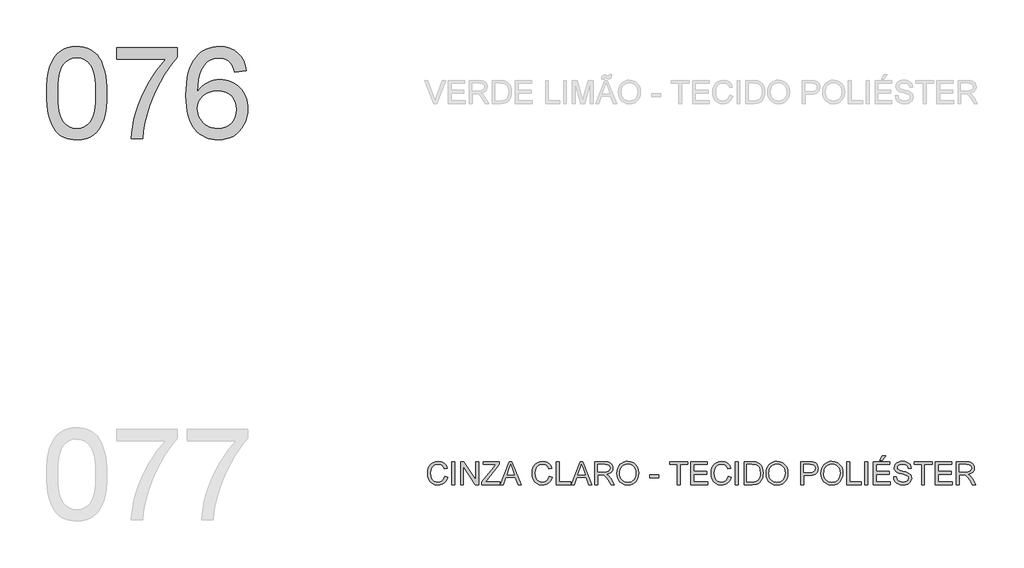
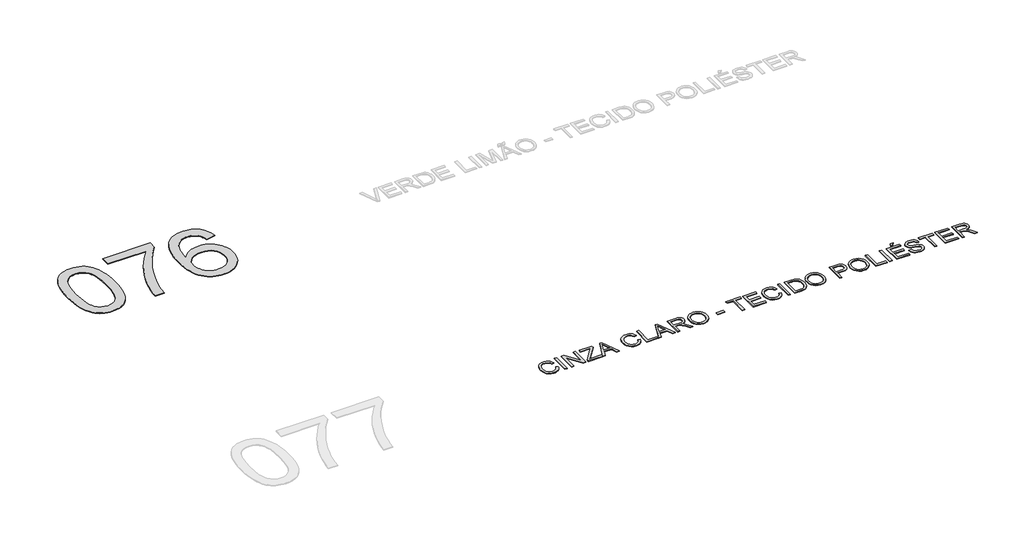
# One storey, part 6 of 39: 2 proxies.
"""IFC4 building model written with IfcOpenShell, lengths in millimetres."""

import ifcopenshell
import ifcopenshell.guid

model = None  # the IFC model being written
_history = None  # IfcOwnerHistory: only IFC2X3 demands one
_inside = {}  # id of a spatial element -> (the spatial element, [elements in it])
_under = {}  # id of a project, library or spatial element -> (it, [spatial elements below it])
_declared = {}  # id of a project -> (the project, [libraries it declares])
_typed = {}  # id of a type object -> (the type object, [elements of that type])
_made_of = {}  # id of a material, layer set ... -> (it, [elements and type objects made of it])


def new_model(schema):
    """Start an empty IFC model of exactly this schema.

    Asked for "IFC4X3", IfcOpenShell would pick the latest addendum, in which some entities
    have other attributes; the version numbers below select the first issue.
    IFC2X3 requires an IfcOwnerHistory on every rooted entity: one is made here for all.
    """
    global model, _history
    if schema == "IFC4X3":
        model = ifcopenshell.file(schema_version=(4, 3, 0, 0))
    else:
        model = ifcopenshell.file(schema=schema)
    _inside.clear()
    _under.clear()
    _declared.clear()
    _typed.clear()
    _made_of.clear()
    _history = None
    if model.schema == "IFC2X3":
        org = make("IfcOrganization", Name="unknown")
        user = make(
            "IfcPersonAndOrganization",
            ThePerson=make("IfcPerson", FamilyName="unknown"),
            TheOrganization=org,
        )
        app = make(
            "IfcApplication",
            ApplicationDeveloper=org,
            Version="unknown",
            ApplicationFullName="unknown",
            ApplicationIdentifier="unknown",
        )
        _history = make(
            "IfcOwnerHistory",
            OwningUser=user,
            OwningApplication=app,
            ChangeAction="ADDED",
            CreationDate=0,
        )
    return model


def make(cls, **values):
    """One entity of the class cls with the attributes given. An attribute that is None is left unset."""
    return model.create_entity(
        cls, **{name: value for name, value in values.items() if value is not None}
    )


def rooted(cls, **values):
    """An entity with a GlobalId (a new one), such as an element, a storey or a relation."""
    return make(cls, GlobalId=ifcopenshell.guid.new(), OwnerHistory=_history, **values)


def si_unit(unit_type, name, prefix=None):
    """IfcSIUnit, for example si_unit("LENGTHUNIT", "METRE", prefix="MILLI")."""
    return make("IfcSIUnit", UnitType=unit_type, Prefix=prefix, Name=name)


def assignment(units):
    """IfcUnitAssignment: the units of a project."""
    return None if units is None else make("IfcUnitAssignment", Units=units)


def point(xyz):
    """IfcCartesianPoint."""
    return None if xyz is None else make("IfcCartesianPoint", Coordinates=xyz)


def direction(xyz):
    """IfcDirection."""
    return None if xyz is None else make("IfcDirection", DirectionRatios=xyz)


def frame(location, z_axis=None, x_axis=None):
    """IfcAxis2Placement3D, a coordinate frame: its origin and axes. An axis left out is left unset."""
    return make(
        "IfcAxis2Placement3D",
        Location=point(location),
        Axis=direction(z_axis),
        RefDirection=direction(x_axis),
    )


def origin():
    """The frame at (0, 0, 0) with its axes left unset."""
    return frame((0.0, 0.0, 0.0))


def origin_with_axes():
    """The frame at (0, 0, 0) with the z axis (0, 0, 1) and the x axis (1, 0, 0) written out."""
    return frame((0.0, 0.0, 0.0), z_axis=(0.0, 0.0, 1.0), x_axis=(1.0, 0.0, 0.0))


def place(relative_to, where):
    """IfcLocalPlacement: puts the frame where relative to a parent placement (None: the world)."""
    return make(
        "IfcLocalPlacement", PlacementRelTo=relative_to, RelativePlacement=where
    )


def context(
    kind, dimensions, precision=None, world=None, true_north=None, identifier=None
):
    """IfcGeometricRepresentationContext, for example the 3D "Model" context."""
    return make(
        "IfcGeometricRepresentationContext",
        ContextIdentifier=identifier,
        ContextType=kind,
        CoordinateSpaceDimension=dimensions,
        Precision=precision,
        WorldCoordinateSystem=world,
        TrueNorth=true_north,
    )


def project(units=None, contexts=None):
    """IfcProject with its units and contexts."""
    return rooted(
        "IfcProject",
        Name="project",
        RepresentationContexts=contexts,
        UnitsInContext=assignment(units),
    )


def spatial(cls, under=None, at=None, **own):
    """A site, building, storey or space (cls), placed at a placement, below another one or the project."""
    s = rooted(cls, ObjectPlacement=at, **own)
    if under is not None:
        _under.setdefault(under.id(), (under, []))[1].append(s)
    return s


def polyline(points):
    """IfcPolyline through the points."""
    return make("IfcPolyline", Points=[point(p) for p in points])


def outline(outer, holes=None, kind="AREA"):
    """IfcArbitraryClosedProfileDef: a profile drawn as a closed curve; with holes, ...WithVoids."""
    if holes is None:
        return make("IfcArbitraryClosedProfileDef", ProfileType=kind, OuterCurve=outer)
    return make(
        "IfcArbitraryProfileDefWithVoids",
        ProfileType=kind,
        OuterCurve=outer,
        InnerCurves=holes,
    )


def extrude(swept, where, along, depth):
    """IfcExtrudedAreaSolid: the profile swept, set in the frame where, extruded along a direction by depth."""
    return make(
        "IfcExtrudedAreaSolid",
        SweptArea=swept,
        Position=where,
        ExtrudedDirection=direction(along),
        Depth=depth,
    )


def shape(context_of_items, identifier, shape_type, items):
    """IfcShapeRepresentation: the items that make up one representation, for example the "Body"."""
    return make(
        "IfcShapeRepresentation",
        ContextOfItems=context_of_items,
        RepresentationIdentifier=identifier,
        RepresentationType=shape_type,
        Items=items,
    )


def made_of(thing, what):
    """Note that an element or type object is made of a material, layer set ...; save() writes the relation."""
    if what is not None:
        _made_of.setdefault(what.id(), (what, []))[1].append(thing)
    return thing


def element(
    cls,
    number,
    at=None,
    inside=None,
    cuts=None,
    type_object=None,
    material=None,
    context=None,
    identifier="Body",
    shape_type=None,
    held_by="IfcProductDefinitionShape",
    body=None,
    shapes=None,
    **own,
):
    """One element of the class cls, such as IfcWall. Its Tag is "e" and its number.

    at: its placement. inside: the storey or other place that contains it. cuts: it is an
    opening in that element (IfcRelVoidsElement). A single representation is given by context,
    identifier, shape_type and body (its items); several are given by shapes. held_by: the class
    of the entity that holds the representations. save() writes the other relations.
    """
    e = rooted(cls, Tag="e%d" % number, ObjectPlacement=at, **own)
    if body is not None:
        shapes = [shape(context, identifier, shape_type, body)]
    if shapes is not None:
        e.Representation = make(held_by, Representations=shapes)
    if inside is not None:
        _inside.setdefault(inside.id(), (inside, []))[1].append(e)
    if cuts is not None:
        rooted(
            "IfcRelVoidsElement", RelatingBuildingElement=cuts, RelatedOpeningElement=e
        )
    if type_object is not None:
        _typed.setdefault(type_object.id(), (type_object, []))[1].append(e)
    return made_of(e, material)


def aggregate(whole, parts):
    """IfcRelAggregates: a whole, such as a stair, and the parts it consists of."""
    return rooted("IfcRelAggregates", RelatingObject=whole, RelatedObjects=parts)


def save(model, path):
    """Write the relations noted so far, then the file.

    IfcRelAggregates (storeys below a building ...), IfcRelContainedInSpatialStructure (elements
    in a storey), IfcRelDefinesByType, IfcRelAssociatesMaterial and IfcRelDeclares: one each for
    every whole, place, type object, material and project.
    """
    for whole, parts in _under.values():
        aggregate(whole, parts)
    for where, things in _inside.values():
        rooted(
            "IfcRelContainedInSpatialStructure",
            RelatedElements=things,
            RelatingStructure=where,
        )
    for kind, things in _typed.values():
        rooted("IfcRelDefinesByType", RelatedObjects=things, RelatingType=kind)
    for what, things in _made_of.values():
        rooted("IfcRelAssociatesMaterial", RelatedObjects=things, RelatingMaterial=what)
    for by, libraries in _declared.values():
        rooted("IfcRelDeclares", RelatingContext=by, RelatedDefinitions=libraries)
    model.write(path)


model = new_model("IFC4")

# Units and contexts
model_context = context("Model", 3, world=origin())
ifc_project = project(units=[si_unit("LENGTHUNIT", "METRE", prefix="MILLI")], contexts=[model_context])

# Site, building, storey
site = spatial("IfcSite", under=ifc_project)
building = spatial("IfcBuilding", under=site)
storey = spatial("IfcBuildingStorey", under=building, Name="Marelli - Linha PROFIT - Planta Baixa", Elevation=0.0)

# Proxies
placement = place(None, origin())
element("IfcBuildingElementProxy", 1, Name="1200mm Arial", ObjectType="1200mm Arial", at=placement, inside=storey, context=model_context, shape_type="SweptSolid", body=[
    extrude(outline(polyline([(-25181.1313792, -124395.792664), (-25178.3630672, -124294.4319773), (-25170.0581311, -124202.8385576), (-25156.2165711, -124121.0124048), (-25136.838387, -124048.953519), (-25112.0063523, -123986.073289), (-25081.8032405, -123931.7831035), (-25046.2290516, -123886.0829627), (-25005.2837855, -123848.9728664), (-24958.8294866, -123820.2596767), (-24906.728199, -123799.7502555), (-24848.9799228, -123787.4446027), (-24785.584658, -123783.3427185), (-24737.9439396, -123785.7707396), (-24692.7312424, -123793.0548031), (-24649.9465664, -123805.194909), (-24609.5899115, -123822.1910572), (-24572.6361651, -123843.7581391), (-24540.0602144, -123869.6110463), (-24511.8620595, -123899.7497788), (-24488.0417003, -123934.1743365), (-24467.4035204, -123972.7467637), (-24448.7519032, -124015.3291046), (-24417.4083572, -124112.5235278), (-24405.4337983, -124169.6831928), (-24396.8805419, -124235.9479371), (-24391.7485881, -124311.3177609), (-24390.0379368, -124395.792664), (-24392.7786576, -124496.5095573), (-24401.0008202, -124587.6431245), (-24414.7044246, -124669.1933658), (-24433.8894706, -124741.1602811), (-24458.5283672, -124804.0681023), (-24488.5935233, -124858.4410612), (-24524.0849388, -124904.2791578), (-24565.0026137, -124941.5823921), (-24611.5120949, -124970.4887199), (-24663.7789294, -124991.1360968), (-24721.8031171, -125003.524523), (-24785.584658, -125007.6539984), (-24828.2589694, -125005.8605737), (-24868.5788361, -125000.4802995), (-24906.544258, -124991.5131759), (-24942.1552351, -124978.9592028), (-24975.4117675, -124962.8183803), (-25006.3138551, -124943.0907083), (-25034.8614979, -124919.7761868), (-25061.054696, -124892.8748159), (-25089.1976686, -124850.2786794), (-25113.5882449, -124802.0999336), (-25134.2264248, -124748.3385785), (-25151.1122084, -124688.9946142), (-25164.2455956, -124624.0680406), (-25173.6265865, -124553.5588577), (-25179.255181, -124477.4670655), (-25181.1313792, -124395.792664)]), holes=[polyline([(-25030.446914, -124395.4983584), (-25026.03233, -124526.4919399), (-25012.7885782, -124632.5247279), (-25002.8557643, -124676.1808245), (-24990.7156585, -124713.5967226), (-24976.3682607, -124744.7724225), (-24959.8135709, -124769.7079239), (-24922.4367602, -124807.884878), (-24880.9396711, -124835.1541309), (-24835.3223037, -124851.5156826), (-24785.584658, -124856.9695332), (-24735.8470122, -124851.4972885), (-24690.2296448, -124835.0805545), (-24648.7325558, -124807.7193311), (-24611.3557451, -124769.4136183), (-24594.8010553, -124744.418336), (-24580.4536575, -124713.2104465), (-24568.3135516, -124675.7899498), (-24558.3807378, -124632.1568459), (-24545.1369859, -124526.2528166), (-24540.722402, -124395.4983584), (-24544.9898331, -124267.9720648), (-24557.7921266, -124163.8062779), (-24567.3938467, -124120.4835744), (-24579.1292823, -124083.0009976), (-24592.9984335, -124051.3585475), (-24609.0013003, -124025.5562241), (-24645.7527116, -123985.5122689), (-24687.7280473, -123956.9094438), (-24734.9273073, -123939.7477487), (-24787.3504916, -123934.0271837), (-24836.8306199, -123939.067167), (-24881.6754351, -123954.187117), (-24921.8849372, -123979.3870337), (-24957.4591261, -124014.666917), (-24974.5656389, -124043.2145599), (-24989.3912833, -124077.2068562), (-25001.9360594, -124116.6438061), (-25012.199967, -124161.5254095), (-25025.8851772, -124267.6225769), (-25030.446914, -124395.4983584)])]), origin_with_axes(), (0.0, 0.0, 1.0), 10.0),
    extrude(outline(polyline([(-24258.1890297, -123952.8627418), (-24258.1890297, -123802.1782766), (-23467.0955873, -123802.1782766), (-23467.0955873, -123924.0207934), (-23523.6114588, -123990.5246611), (-23579.8514188, -124066.7222194), (-23635.8154673, -124152.6134682), (-23691.5036043, -124248.1984076), (-23743.8991975, -124349.3383651), (-23789.9856144, -124451.8946683), (-23829.7628552, -124555.8673172), (-23863.2309197, -124661.2563118), (-23883.1701238, -124737.7941609), (-23899.1362024, -124817.9004653), (-23911.1291555, -124901.5752251), (-23919.1489829, -124988.8184403), (-24069.8334482, -124988.8184403), (-24065.0969675, -124914.8189769), (-24053.5362758, -124833.4986619), (-24035.1513731, -124744.8574952), (-24009.9422594, -124648.8954767), (-23978.2032402, -124550.1651463), (-23940.2286213, -124453.2190435), (-23896.0184025, -124358.0571684), (-23845.5725839, -124264.679521), (-23791.1628368, -124175.8268221), (-23735.0608326, -124094.2397926), (-23677.2665711, -124019.9184325), (-23617.7800525, -123952.8627418), (-24258.1890297, -123952.8627418)])), origin_with_axes(), (0.0, 0.0, 1.0), 10.0),
    extrude(outline(polyline([(-22562.9887959, -124103.5472071), (-22713.6732612, -124122.3827652), (-22724.7465092, -124082.0812927), (-22737.9534728, -124047.7027202), (-22753.294152, -124019.2470479), (-22770.7685468, -123996.7142757), (-22803.1605565, -123969.2886729), (-22839.1210215, -123949.6989567), (-22878.6499419, -123937.9451269), (-22921.7473176, -123934.0271837), (-22957.2847184, -123936.3080521), (-22991.7920495, -123943.1506572), (-23025.2693111, -123954.554999), (-23057.716503, -123970.5210776), (-23087.3218066, -123996.6315022), (-23114.3335421, -124028.1681863), (-23138.7517095, -124065.1311297), (-23160.5763089, -124107.5203326), (-23178.6485119, -124158.1316981), (-23191.8094903, -124219.7611293), (-23200.059244, -124292.4086263), (-23203.3977731, -124376.0741891), (-23174.6753864, -124338.2099347), (-23142.9547613, -124305.5512106), (-23108.235898, -124278.0980167), (-23070.5187965, -124255.8503531), (-23030.8151321, -124238.6610669), (-22990.1365805, -124226.3830053), (-22948.4831416, -124219.0161683), (-22905.8548154, -124216.560556), (-22868.9562513, -124218.2390176), (-22833.4556388, -124223.2744024), (-22799.3529778, -124231.6667104), (-22766.6482685, -124243.4159416), (-22735.3415107, -124258.5220961), (-22705.4327045, -124276.9851737), (-22676.9218498, -124298.8051745), (-22649.8089468, -124323.9820986), (-22625.04589, -124351.81697), (-22603.5845741, -124381.6108131), (-22585.4249991, -124413.3636278), (-22570.567165, -124447.0754142), (-22559.0110719, -124482.7461721), (-22550.7567196, -124520.3759017), (-22545.8041082, -124559.9646029), (-22544.1532378, -124601.5122757), (-22547.2618406, -124656.4462547), (-22556.5876492, -124709.4120649), (-22572.1306635, -124760.4097065), (-22593.8908835, -124809.4391794), (-22621.0957571, -124854.6702707), (-22652.9727319, -124894.2727675), (-22689.5218082, -124928.2466698), (-22730.7429857, -124956.5919775), (-22775.7533478, -124978.9316116), (-22823.6699777, -124994.8884932), (-22874.4928753, -125004.4626221), (-22928.2220407, -125007.6539984), (-22974.223385, -125005.5386769), (-23018.0496269, -124999.1927125), (-23059.7007666, -124988.6161052), (-23099.1768039, -124973.8088549), (-23136.4777389, -124954.7709616), (-23171.6035717, -124931.5024254), (-23204.5543022, -124904.0032463), (-23235.3299303, -124872.2734242), (-23263.1625025, -124835.6875598), (-23287.2840651, -124793.6202536), (-23307.694618, -124746.0715057), (-23324.3941613, -124693.0413161), (-23337.382695, -124634.5296848), (-23346.6602191, -124570.5366117), (-23352.2267335, -124501.062097), (-23354.0822384, -124426.1061404), (-23352.0220992, -124342.1784618), (-23345.8416817, -124264.1828803), (-23335.5409858, -124192.1193959), (-23321.1200116, -124125.9880088), (-23302.578759, -124065.7887188), (-23279.9172281, -124011.521526), (-23253.1354189, -123963.1864303), (-23222.2333313, -123920.7834319), (-23192.218759, -123888.5707647), (-23159.7117862, -123860.6531198), (-23124.7124129, -123837.0304971), (-23087.2206391, -123817.7028968), (-23047.2364647, -123802.6703188), (-23004.7598898, -123791.9327631), (-22959.7909145, -123785.4902296), (-22912.3295385, -123783.3427185), (-22842.9286002, -123788.6586133), (-22780.1127495, -123804.6062978), (-22723.8819865, -123831.1857719), (-22674.2363113, -123868.3970358), (-22632.518493, -123914.9892904), (-22600.071301, -123969.7117372), (-22576.8947353, -124032.5643761), (-22562.9887959, -124103.5472071)]), holes=[polyline([(-23203.3977731, -124599.157831), (-23201.2180723, -124632.9202011), (-23194.6789698, -124665.9284131), (-23183.7804657, -124698.182467), (-23168.52256, -124729.6823629), (-23149.6502136, -124758.9473756), (-23127.9083877, -124784.4967801), (-23103.2970822, -124806.3305766), (-23075.8162972, -124824.4487648), (-23045.6407766, -124838.676601), (-23012.9452642, -124848.8393411), (-22977.7297602, -124854.9369852), (-22939.9942646, -124856.9695332), (-22887.6170655, -124852.7572843), (-22840.5557613, -124840.1205378), (-22798.8103519, -124819.0592936), (-22762.3808373, -124789.5735517), (-22732.8307161, -124752.8589286), (-22711.7234866, -124710.1110407), (-22699.0591489, -124661.3298882), (-22694.837703, -124606.5154709), (-22699.0039666, -124553.8439662), (-22711.5027574, -124507.0769676), (-22732.3340754, -124466.214475), (-22761.4979205, -124431.2564884), (-22798.0377997, -124403.2514715), (-22840.9972197, -124383.247888), (-22890.3761805, -124371.2457379), (-22946.1746821, -124367.2450212), (-22997.8529054, -124371.2457379), (-23045.4660326, -124383.247888), (-23089.0140638, -124403.2514715), (-23128.4969989, -124431.2564884), (-23161.2660876, -124465.7546225), (-23184.6725796, -124505.2375576), (-23198.7164747, -124549.7052938), (-23203.3977731, -124599.157831)])]), origin_with_axes(), (0.0, 0.0, 1.0), 10.0),
])
element("IfcBuildingElementProxy", 2, Name="300mm Arial", ObjectType="300mm Arial", at=placement, inside=storey, context=model_context, shape_type="SweptSolid", body=[
    extrude(outline(polyline([(-19962.5883605, -129423.4390831), (-19924.9172442, -129433.1511677), (-19932.3714531, -129456.5783531), (-19942.2996685, -129477.0486868), (-19954.7018902, -129494.5621691), (-19969.5781184, -129509.1187997), (-19986.5926607, -129520.5622291), (-20005.4098247, -129528.7361071), (-20026.0296106, -129533.640434), (-20048.4520182, -129535.2752096), (-20092.1472021, -129530.3271968), (-20126.8476713, -129515.4831583), (-20153.4455396, -129491.2581289), (-20172.8329207, -129458.1671434), (-20184.6695239, -129419.2636224), (-20188.6150583, -129377.6009865), (-20184.1544891, -129333.6574821), (-20170.7727816, -129295.7104543), (-20149.1689114, -129264.9647166), (-20120.0418544, -129242.6250824), (-20085.4977351, -129229.0226457), (-20047.6426778, -129224.4885001), (-20006.3387268, -129230.3562179), (-19988.3699906, -129237.6908652), (-19972.1900806, -129247.9593714), (-19958.0657112, -129260.8904235), (-19946.263597, -129276.2127086), (-19929.6261337, -129314.0309777), (-19967.29725, -129323.0072984), (-19980.3570609, -129295.5357104), (-19998.1993376, -129276.6909552), (-20021.0448095, -129265.7924511), (-20049.1142058, -129262.1596164), (-20081.4694272, -129266.1879242), (-20108.0489014, -129278.2728478), (-20128.2180318, -129297.1451941), (-20141.3422219, -129321.5357704), (-20148.543512, -129349.1085259), (-20150.943942, -129377.5274101), (-20148.1020536, -129412.3290468), (-20139.5763884, -129442.421794), (-20125.0450496, -129466.6560205), (-20104.1861404, -129483.8820949), (-20079.1793618, -129494.1735937), (-20052.2044145, -129497.6040933), (-20020.759701, -129492.931992), (-19994.5573059, -129478.9156879), (-19974.7744516, -129455.702334), (-19962.5883605, -129423.4390831)])), origin_with_axes(), (0.0, 0.0, 1.0), 10.0),
    extrude(outline(polyline([(-19868.4105697, -129530.5663201), (-19868.4105697, -129229.1973896), (-19830.7394534, -129229.1973896), (-19830.7394534, -129530.5663201), (-19868.4105697, -129530.5663201)])), origin_with_axes(), (0.0, 0.0, 1.0), 10.0),
    extrude(outline(polyline([(-19755.3972208, -129530.5663201), (-19755.3972208, -129229.1973896), (-19715.0773541, -129229.1973896), (-19557.6238602, -129467.9528045), (-19557.6238602, -129229.1973896), (-19519.9527439, -129229.1973896), (-19519.9527439, -129530.5663201), (-19560.2726106, -129530.5663201), (-19717.7261045, -129291.7373288), (-19717.7261045, -129530.5663201), (-19755.3972208, -129530.5663201)])), origin_with_axes(), (0.0, 0.0, 1.0), 10.0),
    extrude(outline(polyline([(-19477.5727381, -129530.5663201), (-19477.5727381, -129491.4972522), (-19323.4301821, -129302.7737887), (-19294.1467753, -129266.8685059), (-19458.7371799, -129266.8685059), (-19458.7371799, -129229.1973896), (-19246.8371507, -129229.1973896), (-19246.8371507, -129266.8685059), (-19415.5478337, -129473.397458), (-19431.4403359, -129492.8952038), (-19242.1282611, -129492.8952038), (-19242.1282611, -129530.5663201), (-19477.5727381, -129530.5663201)])), origin_with_axes(), (0.0, 0.0, 1.0), 10.0),
    extrude(outline(polyline([(-19234.8441976, -129530.5663201), (-19114.5467852, -129229.1973896), (-19082.4674752, -129229.1973896), (-18962.1700628, -129530.5663201), (-19001.9748947, -129530.5663201), (-19036.4822258, -129436.3885293), (-19160.605611, -129436.3885293), (-19195.0393658, -129530.5663201), (-19234.8441976, -129530.5663201)]), holes=[polyline([(-19146.773248, -129398.717413), (-19050.2410125, -129398.717413), (-19077.3907037, -129324.6259792), (-19098.5071302, -129266.8685059), (-19117.269112, -129318.1512561), (-19146.773248, -129398.717413)])]), origin_with_axes(), (0.0, 0.0, 1.0), 10.0),
    extrude(outline(polyline([(-18592.3015049, -129423.4390831), (-18554.6303886, -129433.1511677), (-18562.0845975, -129456.5783531), (-18572.0128128, -129477.0486868), (-18584.4150346, -129494.5621691), (-18599.2912628, -129509.1187997), (-18616.305805, -129520.5622291), (-18635.1229691, -129528.7361071), (-18655.7427549, -129533.640434), (-18678.1651625, -129535.2752096), (-18721.8603465, -129530.3271968), (-18756.5608157, -129515.4831583), (-18783.158684, -129491.2581289), (-18802.5460651, -129458.1671434), (-18814.3826683, -129419.2636224), (-18818.3282027, -129377.6009865), (-18813.8676335, -129333.6574821), (-18800.4859259, -129295.7104543), (-18778.8820558, -129264.9647166), (-18749.7549988, -129242.6250824), (-18715.2108794, -129229.0226457), (-18677.3558221, -129224.4885001), (-18636.0518711, -129230.3562179), (-18618.0831349, -129237.6908652), (-18601.9032249, -129247.9593714), (-18587.7788556, -129260.8904235), (-18575.9767413, -129276.2127086), (-18559.3392781, -129314.0309777), (-18597.0103944, -129323.0072984), (-18610.0702052, -129295.5357104), (-18627.912482, -129276.6909552), (-18650.7579539, -129265.7924511), (-18678.8273501, -129262.1596164), (-18711.1825716, -129266.1879242), (-18737.7620458, -129278.2728478), (-18757.9311761, -129297.1451941), (-18771.0553663, -129321.5357704), (-18778.2566564, -129349.1085259), (-18780.6570864, -129377.5274101), (-18777.815198, -129412.3290468), (-18769.2895327, -129442.421794), (-18754.7581939, -129466.6560205), (-18733.8992848, -129483.8820949), (-18708.8925062, -129494.1735937), (-18681.9175589, -129497.6040933), (-18650.4728453, -129492.931992), (-18624.2704502, -129478.9156879), (-18604.4875959, -129455.702334), (-18592.3015049, -129423.4390831)])), origin_with_axes(), (0.0, 0.0, 1.0), 10.0),
    extrude(outline(polyline([(-18502.8326036, -129530.5663201), (-18502.8326036, -129229.1973896), (-18465.1614873, -129229.1973896), (-18465.1614873, -129492.8952038), (-18314.4770221, -129492.8952038), (-18314.4770221, -129530.5663201), (-18502.8326036, -129530.5663201)])), origin_with_axes(), (0.0, 0.0, 1.0), 10.0),
    extrude(outline(polyline([(-18307.1929586, -129530.5663201), (-18186.8955462, -129229.1973896), (-18154.8162362, -129229.1973896), (-18034.5188238, -129530.5663201), (-18074.3236556, -129530.5663201), (-18108.8309868, -129436.3885293), (-18232.954372, -129436.3885293), (-18267.3881267, -129530.5663201), (-18307.1929586, -129530.5663201)]), holes=[polyline([(-18219.122009, -129398.717413), (-18122.5897734, -129398.717413), (-18149.7394647, -129324.6259792), (-18170.8558912, -129266.8685059), (-18189.6178729, -129318.1512561), (-18219.122009, -129398.717413)])]), origin_with_axes(), (0.0, 0.0, 1.0), 10.0),
    extrude(outline(polyline([(-17994.2725335, -129530.5663201), (-17994.2725335, -129229.1973896), (-17864.4101892, -129229.1973896), (-17829.5073849, -129231.2299376), (-17804.1143302, -129237.3275817), (-17785.5546835, -129248.5847708), (-17771.1521034, -129266.0959537), (-17761.9090683, -129287.8101885), (-17758.8280566, -129311.6765329), (-17763.9324193, -129341.3646099), (-17779.2455073, -129365.9759154), (-17790.8452865, -129376.0052983), (-17805.2271732, -129384.0205273), (-17842.3372695, -129394.0085235), (-17820.9265374, -129410.1217548), (-17790.3923318, -129448.8965171), (-17740.1396512, -129530.5663201), (-17783.9176087, -129530.5663201), (-17823.1338293, -129468.0999573), (-17851.460743, -129426.750021), (-17871.3631589, -129407.2154871), (-17889.2790121, -129400.0417882), (-17911.1312026, -129398.717413), (-17956.6014172, -129398.717413), (-17956.6014172, -129530.5663201), (-17994.2725335, -129530.5663201)]), holes=[polyline([(-17956.6014172, -129361.0462967), (-17872.2828639, -129361.0462967), (-17848.0670316, -129359.7127245), (-17829.2774587, -129355.7120078), (-17815.1323959, -129348.7774322), (-17804.8500942, -129338.6422832), (-17798.5869032, -129326.3826157), (-17796.4991729, -129313.0744845), (-17800.4814955, -129294.6987789), (-17812.4284633, -129279.8915286), (-17832.9838698, -129270.1242616), (-17862.7915084, -129266.8685059), (-17956.6014172, -129266.8685059), (-17956.6014172, -129361.0462967)])]), origin_with_axes(), (0.0, 0.0, 1.0), 10.0),
    extrude(outline(polyline([(-17707.0302717, -129383.8549804), (-17704.519477, -129348.5061192), (-17696.9870932, -129317.213157), (-17684.4331201, -129289.9760937), (-17666.8575578, -129266.7949295), (-17645.3134684, -129248.2858666), (-17620.8539143, -129235.0651074), (-17593.4788953, -129227.1326519), (-17563.1884116, -129224.4885001), (-17523.6594912, -129229.454907), (-17488.2140609, -129244.3541278), (-17458.7835013, -129268.1376988), (-17437.2991928, -129299.7571563), (-17424.1658056, -129337.68579), (-17419.7880098, -129380.3968896), (-17424.3957318, -129423.6782064), (-17438.2188978, -129462.140269), (-17460.4941526, -129493.8149087), (-17490.4581411, -129516.733957), (-17525.6000687, -129530.6398965), (-17563.4091407, -129535.2752096), (-17603.5450664, -129530.1524528), (-17639.1928318, -129514.7841825), (-17668.549815, -129490.5591531), (-17689.8133943, -129458.8661192), (-17702.7260523, -129422.3998164), (-17707.0302717, -129383.8549804)]), holes=[polyline([(-17669.3591554, -129384.2228624), (-17667.4760594, -129409.1974513), (-17661.8267715, -129431.3669401), (-17652.4112917, -129450.7313286), (-17639.22962, -129467.2906169), (-17623.2060598, -129480.5527628), (-17605.2649147, -129490.0257242), (-17585.4061848, -129495.709501), (-17563.6298699, -129497.6040933), (-17541.4810746, -129495.6911069), (-17521.3878198, -129489.9521478), (-17503.3501058, -129480.3872159), (-17487.3679323, -129466.9963113), (-17474.2828296, -129450.0875351), (-17464.9363277, -129429.9689885), (-17459.3284265, -129406.6406715), (-17457.4591261, -129380.102584), (-17460.6596995, -129346.7540812), (-17470.2614196, -129317.9305269), (-17486.015966, -129294.358488), (-17507.6750185, -129276.7645316), (-17533.8038372, -129265.8108452), (-17562.9676824, -129262.1596164), (-17583.9875399, -129263.9185522), (-17603.4898841, -129269.1953595), (-17621.4747152, -129277.9900385), (-17637.942033, -129290.302589), (-17651.687024, -129306.7262208), (-17661.5048748, -129327.8541437), (-17667.3955852, -129353.6863575), (-17669.3591554, -129384.2228624)])]), origin_with_axes(), (0.0, 0.0, 1.0), 10.0),
    extrude(outline(polyline([(-17273.8124341, -129441.0974188), (-17273.8124341, -129403.4263025), (-17156.0901957, -129403.4263025), (-17156.0901957, -129441.0974188), (-17273.8124341, -129441.0974188)])), origin_with_axes(), (0.0, 0.0, 1.0), 10.0),
    extrude(outline(polyline([(-16915.9368292, -129530.5663201), (-16915.9368292, -129266.8685059), (-17014.8235095, -129266.8685059), (-17014.8235095, -129229.1973896), (-16779.3790326, -129229.1973896), (-16779.3790326, -129266.8685059), (-16878.2657129, -129266.8685059), (-16878.2657129, -129530.5663201), (-16915.9368292, -129530.5663201)])), origin_with_axes(), (0.0, 0.0, 1.0), 10.0),
    extrude(outline(polyline([(-16736.9990268, -129530.5663201), (-16736.9990268, -129229.1973896), (-16520.390108, -129229.1973896), (-16520.390108, -129266.8685059), (-16699.3279105, -129266.8685059), (-16699.3279105, -129356.3374072), (-16529.8078871, -129356.3374072), (-16529.8078871, -129394.0085235), (-16699.3279105, -129394.0085235), (-16699.3279105, -129492.8952038), (-16515.6812185, -129492.8952038), (-16515.6812185, -129530.5663201), (-16736.9990268, -129530.5663201)])), origin_with_axes(), (0.0, 0.0, 1.0), 10.0),
    extrude(outline(polyline([(-16247.2745148, -129423.4390831), (-16209.6033985, -129433.1511677), (-16217.0576074, -129456.5783531), (-16226.9858228, -129477.0486868), (-16239.3880445, -129494.5621691), (-16254.2642727, -129509.1187997), (-16271.278815, -129520.5622291), (-16290.095979, -129528.7361071), (-16310.7157649, -129533.640434), (-16333.1381725, -129535.2752096), (-16376.8333565, -129530.3271968), (-16411.5338256, -129515.4831583), (-16438.1316939, -129491.2581289), (-16457.519075, -129458.1671434), (-16469.3556782, -129419.2636224), (-16473.3012126, -129377.6009865), (-16468.8406434, -129333.6574821), (-16455.4589359, -129295.7104543), (-16433.8550657, -129264.9647166), (-16404.7280087, -129242.6250824), (-16370.1838894, -129229.0226457), (-16332.3288321, -129224.4885001), (-16291.0248811, -129230.3562179), (-16273.0561449, -129237.6908652), (-16256.8762349, -129247.9593714), (-16242.7518655, -129260.8904235), (-16230.9497513, -129276.2127086), (-16214.312288, -129314.0309777), (-16251.9834043, -129323.0072984), (-16265.0432152, -129295.5357104), (-16282.8854919, -129276.6909552), (-16305.7309638, -129265.7924511), (-16333.8003601, -129262.1596164), (-16366.1555815, -129266.1879242), (-16392.7350557, -129278.2728478), (-16412.9041861, -129297.1451941), (-16426.0283763, -129321.5357704), (-16433.2296663, -129349.1085259), (-16435.6300963, -129377.5274101), (-16432.7882079, -129412.3290468), (-16424.2625427, -129442.421794), (-16409.7312039, -129466.6560205), (-16388.8722947, -129483.8820949), (-16363.8655161, -129494.1735937), (-16336.8905688, -129497.6040933), (-16305.4458553, -129492.931992), (-16279.2434602, -129478.9156879), (-16259.4606059, -129455.702334), (-16247.2745148, -129423.4390831)])), origin_with_axes(), (0.0, 0.0, 1.0), 10.0),
    extrude(outline(polyline([(-16153.096724, -129530.5663201), (-16153.096724, -129229.1973896), (-16115.4256077, -129229.1973896), (-16115.4256077, -129530.5663201), (-16153.096724, -129530.5663201)])), origin_with_axes(), (0.0, 0.0, 1.0), 10.0),
    extrude(outline(polyline([(-16040.0833751, -129530.5663201), (-16040.0833751, -129229.1973896), (-15936.1199233, -129229.1973896), (-15882.3355756, -129233.5383972), (-15858.3128813, -129241.9077126), (-15838.0425834, -129255.0962821), (-15817.2020683, -129278.0521186), (-15802.3580298, -129306.5997614), (-15793.4736797, -129340.1873876), (-15790.5122296, -129378.2631741), (-15792.5171865, -129410.6091985), (-15798.5320571, -129439.0740679), (-15807.6923188, -129463.3082943), (-15819.1334488, -129482.9623899), (-15832.3036242, -129498.477813), (-15846.6510221, -129510.2960221), (-15863.1229384, -129519.0608107), (-15882.6666694, -129525.4159721), (-15931.1167281, -129530.5663201), (-16040.0833751, -129530.5663201)]), holes=[polyline([(-16002.4122588, -129492.8952038), (-15935.7520413, -129492.8952038), (-15908.1792857, -129491.5340404), (-15887.2651943, -129487.4505502), (-15871.4830567, -129480.8838566), (-15859.3061627, -129472.0730828), (-15846.2187607, -129455.7667134), (-15836.3871144, -129434.6594839), (-15830.234288, -129408.6594239), (-15828.1833459, -129377.6745629), (-15832.2024567, -129336.6189322), (-15844.2597891, -129306.3054558), (-15862.0744747, -129285.4833349), (-15883.3656452, -129272.9017706), (-15905.0338947, -129268.3768221), (-15936.7821109, -129266.8685059), (-16002.4122588, -129266.8685059), (-16002.4122588, -129492.8952038)])]), origin_with_axes(), (0.0, 0.0, 1.0), 10.0),
    extrude(outline(polyline([(-15752.8411133, -129383.8549804), (-15750.3303187, -129348.5061192), (-15742.7979348, -129317.213157), (-15730.2439617, -129289.9760937), (-15712.6683994, -129266.7949295), (-15691.1243101, -129248.2858666), (-15666.6647559, -129235.0651074), (-15639.2897369, -129227.1326519), (-15608.9992532, -129224.4885001), (-15569.4703328, -129229.454907), (-15534.0249026, -129244.3541278), (-15504.5943429, -129268.1376988), (-15483.1100344, -129299.7571563), (-15469.9766472, -129337.68579), (-15465.5988515, -129380.3968896), (-15470.2065734, -129423.6782064), (-15484.0297394, -129462.140269), (-15506.3049942, -129493.8149087), (-15536.2689827, -129516.733957), (-15571.4109103, -129530.6398965), (-15609.2199824, -129535.2752096), (-15649.355908, -129530.1524528), (-15685.0036734, -129514.7841825), (-15714.3606566, -129490.5591531), (-15735.6242359, -129458.8661192), (-15748.5368939, -129422.3998164), (-15752.8411133, -129383.8549804)]), holes=[polyline([(-15715.169997, -129384.2228624), (-15713.286901, -129409.1974513), (-15707.6376131, -129431.3669401), (-15698.2221333, -129450.7313286), (-15685.0404616, -129467.2906169), (-15669.0169014, -129480.5527628), (-15651.0757564, -129490.0257242), (-15631.2170264, -129495.709501), (-15609.4407116, -129497.6040933), (-15587.2919162, -129495.6911069), (-15567.1986615, -129489.9521478), (-15549.1609474, -129480.3872159), (-15533.178774, -129466.9963113), (-15520.0936712, -129450.0875351), (-15510.7471693, -129429.9689885), (-15505.1392681, -129406.6406715), (-15503.2699678, -129380.102584), (-15506.4705411, -129346.7540812), (-15516.0722612, -129317.9305269), (-15531.8268076, -129294.358488), (-15553.4858601, -129276.7645316), (-15579.6146788, -129265.8108452), (-15608.778524, -129262.1596164), (-15629.7983815, -129263.9185522), (-15649.3007257, -129269.1953595), (-15667.2855568, -129277.9900385), (-15683.7528746, -129290.302589), (-15697.4978656, -129306.7262208), (-15707.3157164, -129327.8541437), (-15713.2064268, -129353.6863575), (-15715.169997, -129384.2228624)])]), origin_with_axes(), (0.0, 0.0, 1.0), 10.0),
    extrude(outline(polyline([(-15296.0788281, -129530.5663201), (-15296.0788281, -129229.1973896), (-15184.3898543, -129229.1973896), (-15139.3610981, -129232.0668692), (-15119.2839382, -129237.4287493), (-15102.7568396, -129246.1567496), (-15089.4487084, -129258.6463433), (-15079.0284509, -129275.2930036), (-15072.2962104, -129294.9287051), (-15070.0521302, -129316.3854225), (-15071.5673442, -129334.8852883), (-15076.1129861, -129351.9044291), (-15083.6890559, -129367.4428449), (-15094.2955537, -129381.5005356), (-15108.8567829, -129393.1531978), (-15128.2970471, -129401.476528), (-15152.6163463, -129406.470526), (-15181.8146804, -129408.1351921), (-15258.4077118, -129408.1351921), (-15258.4077118, -129530.5663201), (-15296.0788281, -129530.5663201)]), holes=[polyline([(-15258.4077118, -129370.4640758), (-15179.6073884, -129370.4640758), (-15146.2037032, -129367.005985), (-15124.1307835, -129356.6317127), (-15111.8251308, -129339.9850525), (-15107.7232465, -129317.7097977), (-15110.1420707, -129300.7872259), (-15117.398543, -129286.5134045), (-15128.5913527, -129275.7712502), (-15142.8191889, -129269.4436799), (-15180.4903052, -129266.8685059), (-15258.4077118, -129266.8685059), (-15258.4077118, -129370.4640758)])]), origin_with_axes(), (0.0, 0.0, 1.0), 10.0),
    extrude(outline(polyline([(-15032.3810139, -129383.8549804), (-15029.8702193, -129348.5061192), (-15022.3378355, -129317.213157), (-15009.7838624, -129289.9760937), (-14992.2083001, -129266.7949295), (-14970.6642107, -129248.2858666), (-14946.2046566, -129235.0651074), (-14918.8296376, -129227.1326519), (-14888.5391538, -129224.4885001), (-14849.0102334, -129229.454907), (-14813.5648032, -129244.3541278), (-14784.1342436, -129268.1376988), (-14762.6499351, -129299.7571563), (-14749.5165478, -129337.68579), (-14745.1387521, -129380.3968896), (-14749.7464741, -129423.6782064), (-14763.5696401, -129462.140269), (-14785.8448949, -129493.8149087), (-14815.8088834, -129516.733957), (-14850.950811, -129530.6398965), (-14888.759883, -129535.2752096), (-14928.8958087, -129530.1524528), (-14964.543574, -129514.7841825), (-14993.9005572, -129490.5591531), (-15015.1641366, -129458.8661192), (-15028.0767946, -129422.3998164), (-15032.3810139, -129383.8549804)]), holes=[polyline([(-14994.7098976, -129384.2228624), (-14992.8268017, -129409.1974513), (-14987.1775138, -129431.3669401), (-14977.762034, -129450.7313286), (-14964.5803622, -129467.2906169), (-14948.5568021, -129480.5527628), (-14930.615657, -129490.0257242), (-14910.7569271, -129495.709501), (-14888.9806122, -129497.6040933), (-14866.8318168, -129495.6911069), (-14846.7385621, -129489.9521478), (-14828.700848, -129480.3872159), (-14812.7186746, -129466.9963113), (-14799.6335719, -129450.0875351), (-14790.28707, -129429.9689885), (-14784.6791688, -129406.6406715), (-14782.8098684, -129380.102584), (-14786.0104418, -129346.7540812), (-14795.6121618, -129317.9305269), (-14811.3667083, -129294.358488), (-14833.0257607, -129276.7645316), (-14859.1545795, -129265.8108452), (-14888.3184246, -129262.1596164), (-14909.3382821, -129263.9185522), (-14928.8406264, -129269.1953595), (-14946.8254574, -129277.9900385), (-14963.2927752, -129290.302589), (-14977.0377663, -129306.7262208), (-14986.855617, -129327.8541437), (-14992.7463275, -129353.6863575), (-14994.7098976, -129384.2228624)])]), origin_with_axes(), (0.0, 0.0, 1.0), 10.0),
    extrude(outline(polyline([(-14693.3409672, -129530.5663201), (-14693.3409672, -129229.1973896), (-14655.6698509, -129229.1973896), (-14655.6698509, -129492.8952038), (-14504.9853856, -129492.8952038), (-14504.9853856, -129530.5663201), (-14693.3409672, -129530.5663201)])), origin_with_axes(), (0.0, 0.0, 1.0), 10.0),
    extrude(outline(polyline([(-14457.8964903, -129530.5663201), (-14457.8964903, -129229.1973896), (-14420.225374, -129229.1973896), (-14420.225374, -129530.5663201), (-14457.8964903, -129530.5663201)])), origin_with_axes(), (0.0, 0.0, 1.0), 10.0),
    extrude(outline(polyline([(-14344.8831413, -129530.5663201), (-14344.8831413, -129229.1973896), (-14128.2742226, -129229.1973896), (-14128.2742226, -129266.8685059), (-14307.212025, -129266.8685059), (-14307.212025, -129356.3374072), (-14137.6920017, -129356.3374072), (-14137.6920017, -129394.0085235), (-14307.212025, -129394.0085235), (-14307.212025, -129492.8952038), (-14123.565333, -129492.8952038), (-14123.565333, -129530.5663201), (-14344.8831413, -129530.5663201)])), origin_with_axes(), (0.0, 0.0, 1.0), 10.0),
    extrude(outline(polyline([(-14260.1231297, -129210.3618315), (-14231.8697924, -129153.855157), (-14184.780897, -129153.855157), (-14231.8697924, -129210.3618315), (-14260.1231297, -129210.3618315)])), origin_with_axes(), (0.0, 0.0, 1.0), 10.0),
    extrude(outline(polyline([(-14081.1853272, -129426.9707502), (-14043.5142109, -129426.9707502), (-14039.1915975, -129447.8756446), (-14031.3741051, -129464.6786547), (-14019.1788169, -129478.0143771), (-14001.7228162, -129488.517408), (-13980.3856605, -129495.332422), (-13956.5469072, -129497.6040933), (-13935.5592394, -129495.884245), (-13917.1835338, -129490.7247), (-13902.29351, -129482.5577197), (-13891.7628879, -129471.8155654), (-13885.4996969, -129459.4823215), (-13883.4119666, -129446.5420724), (-13884.9754651, -129433.932917), (-13889.6659605, -129423.0344129), (-13899.1941042, -129413.7361954), (-13915.2705474, -129405.9279001), (-13970.1217529, -129391.5437141), (-14006.1282031, -129382.0247675), (-14029.1668131, -129372.9656733), (-14047.9195978, -129360.2921386), (-14061.2093349, -129344.9330653), (-14069.1279948, -129327.2195472), (-14071.7675481, -129307.4826782), (-14068.5025954, -129285.4189555), (-14058.7077373, -129264.845155), (-14042.6404912, -129247.4075484), (-14020.5583744, -129234.7524077), (-13994.0524766, -129227.054477), (-13964.7138875, -129224.4885001), (-13932.9288831, -129227.1740386), (-13905.1170043, -129235.2306543), (-13882.2715324, -129248.4928003), (-13865.3857488, -129266.7949295), (-13854.6987769, -129288.9966079), (-13850.4497398, -129313.9574013), (-13888.1208561, -129313.9574013), (-13895.0370376, -129291.4798114), (-13909.4580119, -129275.2562154), (-13931.9907841, -129265.4337661), (-13963.2423595, -129262.1596164), (-13995.229699, -129265.3969779), (-14017.17386, -129275.1090626), (-14029.8657889, -129289.4012781), (-14034.0964318, -129306.3790322), (-14031.0981936, -129320.8551887), (-14022.1034788, -129332.4986539), (-14000.8398995, -129342.9097143), (-13960.5936092, -129353.541504), (-13919.0597319, -129363.6398648), (-13893.9333917, -129372.4506385), (-13872.4582802, -129386.1174547), (-13857.4762859, -129402.9848441), (-13848.6747092, -129422.868866), (-13845.7408503, -129445.5855792), (-13849.1161676, -129468.8081301), (-13859.2421195, -129490.6511236), (-13875.7048388, -129509.4498935), (-13898.0904582, -129523.539774), (-13925.0102232, -129532.3413507), (-13955.0753793, -129535.2752096), (-13991.9831404, -129532.1114244), (-14022.3609962, -129522.620069), (-14046.5584344, -129506.764355), (-14064.924943, -129484.5074943), (-14076.715561, -129457.3945912), (-14081.1853272, -129426.9707502)])), origin_with_axes(), (0.0, 0.0, 1.0), 10.0),
    extrude(outline(polyline([(-13713.8919432, -129530.5663201), (-13713.8919432, -129266.8685059), (-13812.7786235, -129266.8685059), (-13812.7786235, -129229.1973896), (-13577.3341466, -129229.1973896), (-13577.3341466, -129266.8685059), (-13676.2208269, -129266.8685059), (-13676.2208269, -129530.5663201), (-13713.8919432, -129530.5663201)])), origin_with_axes(), (0.0, 0.0, 1.0), 10.0),
    extrude(outline(polyline([(-13534.9541408, -129530.5663201), (-13534.9541408, -129229.1973896), (-13318.345222, -129229.1973896), (-13318.345222, -129266.8685059), (-13497.2830245, -129266.8685059), (-13497.2830245, -129356.3374072), (-13327.7630011, -129356.3374072), (-13327.7630011, -129394.0085235), (-13497.2830245, -129394.0085235), (-13497.2830245, -129492.8952038), (-13313.6363325, -129492.8952038), (-13313.6363325, -129530.5663201), (-13534.9541408, -129530.5663201)])), origin_with_axes(), (0.0, 0.0, 1.0), 10.0),
    extrude(outline(polyline([(-13257.129658, -129530.5663201), (-13257.129658, -129229.1973896), (-13127.2673137, -129229.1973896), (-13092.3645094, -129231.2299376), (-13066.9714547, -129237.3275817), (-13048.411808, -129248.5847708), (-13034.0092279, -129266.0959537), (-13024.7661928, -129287.8101885), (-13021.6851811, -129311.6765329), (-13026.7895438, -129341.3646099), (-13042.1026318, -129365.9759154), (-13053.702411, -129376.0052983), (-13068.0842977, -129384.0205273), (-13105.194394, -129394.0085235), (-13083.7836619, -129410.1217548), (-13053.2494563, -129448.8965171), (-13002.9967757, -129530.5663201), (-13046.7747332, -129530.5663201), (-13085.9909538, -129468.0999573), (-13114.3178675, -129426.750021), (-13134.2202834, -129407.2154871), (-13152.1361366, -129400.0417882), (-13173.9883271, -129398.717413), (-13219.4585417, -129398.717413), (-13219.4585417, -129530.5663201), (-13257.129658, -129530.5663201)]), holes=[polyline([(-13219.4585417, -129361.0462967), (-13135.1399884, -129361.0462967), (-13110.9241561, -129359.7127245), (-13092.1345832, -129355.7120078), (-13077.9895205, -129348.7774322), (-13067.7072187, -129338.6422832), (-13061.4440277, -129326.3826157), (-13059.3562974, -129313.0744845), (-13063.33862, -129294.6987789), (-13075.2855878, -129279.8915286), (-13095.8409943, -129270.1242616), (-13125.6486329, -129266.8685059), (-13219.4585417, -129266.8685059), (-13219.4585417, -129361.0462967)])]), origin_with_axes(), (0.0, 0.0, 1.0), 10.0),
])

save(model, "model.ifc")
